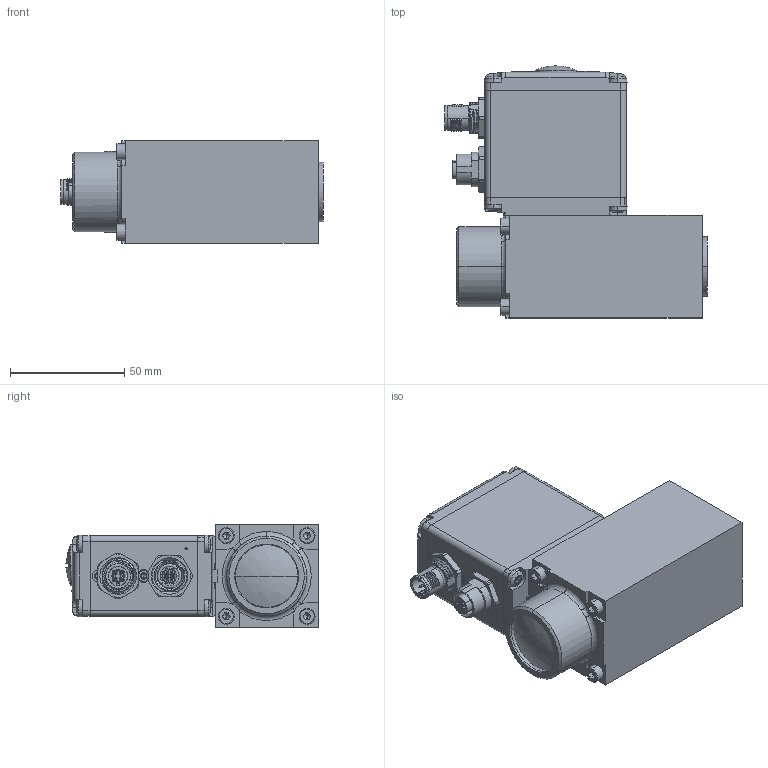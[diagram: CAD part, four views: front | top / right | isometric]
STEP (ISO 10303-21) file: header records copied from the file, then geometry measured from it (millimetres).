
FILE_DESCRIPTION (( 'STEP AP203' ), '1' );
FILE_NAME ('PI45LV-P1-24P..STEP', '2014-07-14T13:01:33', ( '' ), ( '' ), 'SwSTEP 2.0', 'SolidWorks 2014', '' );
FILE_SCHEMA (( 'CONFIG_CONTROL_DESIGN' ));
Length unit declared in the file: millimetre
Products named in the file (2): PI45LV-P1-24P.
Bounding box: 114.9 x 110.39 x 45 mm (x, y, z)
Volume: 253637.3 mm3; surface area: 90727.1 mm2
Topology: 35 solids, 35 shells, 3623 faces, 9665 edges, 6217 vertices
Faces by surface type: plane 1774, cylinder 1141, cone 292, torus 270, bspline 117, sphere 29
Entity records: 119154 total; most frequent: CARTESIAN_POINT 29750, ORIENTED_EDGE 19226, DIRECTION 17844, EDGE_CURVE 9613, VERTEX_POINT 6217, AXIS2_PLACEMENT_3D 5961, VECTOR 5922, LINE 5922
